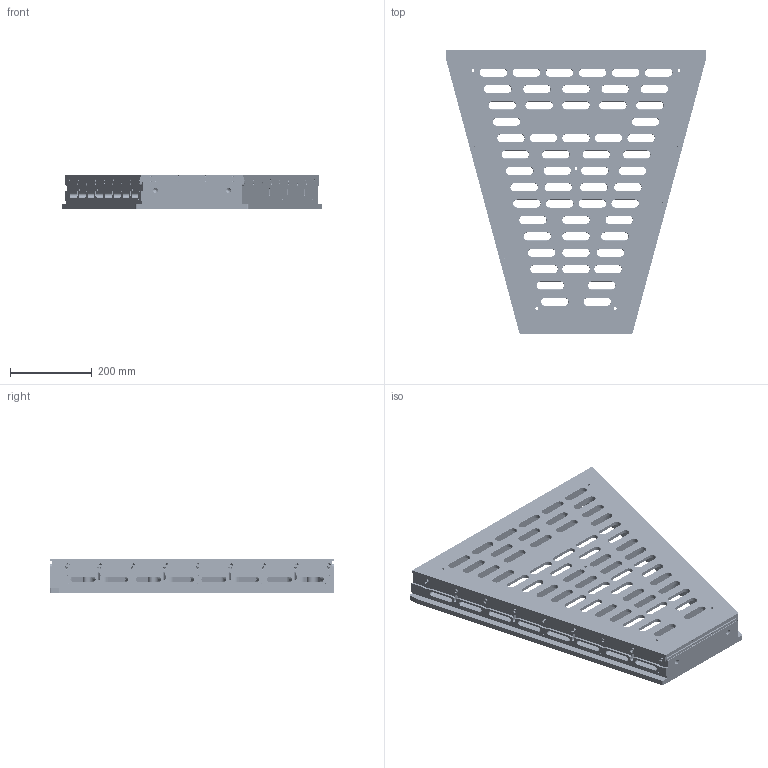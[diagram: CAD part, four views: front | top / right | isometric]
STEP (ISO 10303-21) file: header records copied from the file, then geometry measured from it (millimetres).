
FILE_DESCRIPTION((''),'2;1');
FILE_NAME('24A3816_REV_E_ASM','2016-02-29T',('jfarrell'),(''),'PRO/ENGINEER BY PARAMETRIC TECHNOLOGY CORPORATION, 2015360','PRO/ENGINEER BY PARAMETRIC TECHNOLOGY CORPORATION, 2015360','');
FILE_SCHEMA(('CONFIG_CONTROL_DESIGN'));
Products named in the file (10): 24A3685_REV_E_AF0; SLEEVE_LBL_DRWG_NO_24A0212C_AF0; SLEEVE_LBL_DRWG_NO_24A0212C_AF1; SLEEVE_LBL_DRWG_NO_24A0212C_AF2; SLEEVE_LBL_DRWG_NO_24A0212C_AF3; SLEEVE_LBL_DRWG_NO_24A0212C_AF4; WIRE_MOUNT_THREAD_SUPPORT_10-32; WIRE_MOUNT_THRD_SUPPT_250-2_AF0; WIRE_MOUNT_THRD_SUPPT_250-20UNC; 24A3816_REV_E_ASM
Assembly tree (45 placements, depth 2):
  24A3816_REV_E_ASM
    24A3685_REV_E_AF0
    SLEEVE_LBL_DRWG_NO_24A0212C_AF0
    SLEEVE_LBL_DRWG_NO_24A0212C_AF1
    SLEEVE_LBL_DRWG_NO_24A0212C_AF2
    SLEEVE_LBL_DRWG_NO_24A0212C_AF3
    SLEEVE_LBL_DRWG_NO_24A0212C_AF4
    WIRE_MOUNT_THREAD_SUPPORT_10-32  x36
    WIRE_MOUNT_THRD_SUPPT_250-2_AF0
    WIRE_MOUNT_THRD_SUPPT_250-20UNC  x2
Bounding box: 635 x 695.27 x 83.82 mm (x, y, z)
Volume: 8112771.6 mm3; surface area: 1334680.1 mm2
Topology: 45 solids, 276 shells, 3657 faces, 9339 edges, 5720 vertices
Faces by surface type: cylinder 1340, cone 1188, plane 1089, torus 39, bspline 1
Entity records: 103823 total; most frequent: DIRECTION 15117, CARTESIAN_POINT 14855, ORIENTED_EDGE 12498, PRESENTATION_STYLE_ASSIGNMENT 6846, STYLED_ITEM 6741, CURVE_STYLE 6567, EDGE_CURVE 6567, AXIS2_PLACEMENT_3D 5857
